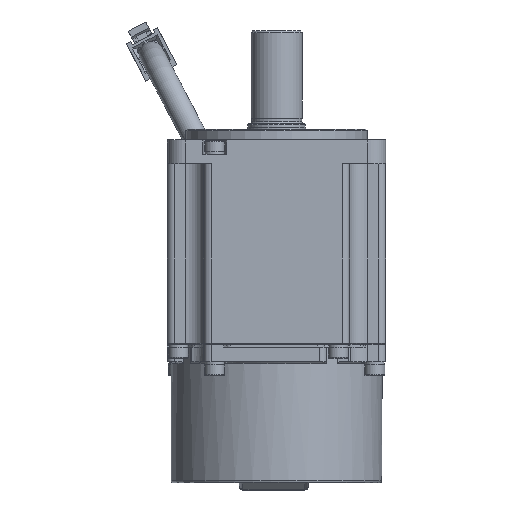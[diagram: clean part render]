
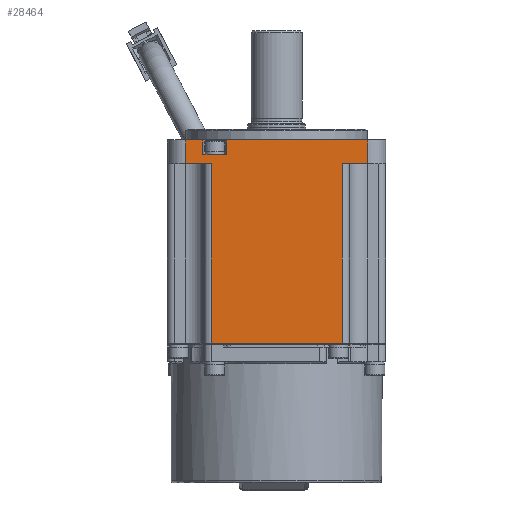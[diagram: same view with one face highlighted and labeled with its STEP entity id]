
A CAD part, front view. The second image highlights one B-rep face of the part: STEP entity #28464.
In plain terms, the highlighted planar face has unit normal (0, -1, 0).
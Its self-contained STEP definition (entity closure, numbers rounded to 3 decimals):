
#1724=PLANE('',#30789);
#3004=FACE_OUTER_BOUND('',#4581,.T.);
#4581=EDGE_LOOP('',(#23686,#23687,#23688,#23689,#23690,#23691,#23692,#23693,
#23694,#23695,#23696,#23697));
#6647=LINE('',#48571,#9019);
#6660=LINE('',#48607,#9032);
#6663=LINE('',#48616,#9035);
#6666=LINE('',#48623,#9038);
#6687=LINE('',#48674,#9059);
#6690=LINE('',#48681,#9062);
#6700=LINE('',#48718,#9072);
#6706=LINE('',#48737,#9078);
#6707=LINE('',#48739,#9079);
#6895=LINE('',#51685,#9267);
#6931=LINE('',#51783,#9303);
#6932=LINE('',#51785,#9304);
#9019=VECTOR('',#36041,1000.);
#9032=VECTOR('',#36066,1000.);
#9035=VECTOR('',#36075,1000.);
#9038=VECTOR('',#36082,1000.);
#9059=VECTOR('',#36133,1000.);
#9062=VECTOR('',#36140,1000.);
#9072=VECTOR('',#36172,1000.);
#9078=VECTOR('',#36188,1000.);
#9079=VECTOR('',#36191,1000.);
#9267=VECTOR('',#37171,1000.);
#9303=VECTOR('',#37285,1000.);
#9304=VECTOR('',#37288,1000.);
#12547=VERTEX_POINT('',#48563);
#12550=VERTEX_POINT('',#48568);
#12551=VERTEX_POINT('',#48570);
#12568=VERTEX_POINT('',#48605);
#12571=VERTEX_POINT('',#48615);
#12573=VERTEX_POINT('',#48621);
#12588=VERTEX_POINT('',#48673);
#12590=VERTEX_POINT('',#48679);
#12606=VERTEX_POINT('',#48716);
#12610=VERTEX_POINT('',#48726);
#12911=VERTEX_POINT('',#51675);
#12914=VERTEX_POINT('',#51683);
#16042=EDGE_CURVE('',#12550,#12551,#6647,.T.);
#16061=EDGE_CURVE('',#12568,#12547,#6660,.T.);
#16065=EDGE_CURVE('',#12571,#12547,#6663,.T.);
#16069=EDGE_CURVE('',#12568,#12573,#6666,.T.);
#16094=EDGE_CURVE('',#12588,#12551,#6687,.T.);
#16098=EDGE_CURVE('',#12550,#12590,#6690,.T.);
#16116=EDGE_CURVE('',#12573,#12606,#6700,.T.);
#16126=EDGE_CURVE('',#12610,#12588,#6706,.T.);
#16127=EDGE_CURVE('',#12590,#12571,#6707,.T.);
#16615=EDGE_CURVE('',#12911,#12914,#6895,.T.);
#16665=EDGE_CURVE('',#12911,#12606,#6931,.T.);
#16666=EDGE_CURVE('',#12914,#12610,#6932,.T.);
#23686=ORIENTED_EDGE('',*,*,#16666,.T.);
#23687=ORIENTED_EDGE('',*,*,#16126,.T.);
#23688=ORIENTED_EDGE('',*,*,#16094,.T.);
#23689=ORIENTED_EDGE('',*,*,#16042,.F.);
#23690=ORIENTED_EDGE('',*,*,#16098,.T.);
#23691=ORIENTED_EDGE('',*,*,#16127,.T.);
#23692=ORIENTED_EDGE('',*,*,#16065,.T.);
#23693=ORIENTED_EDGE('',*,*,#16061,.F.);
#23694=ORIENTED_EDGE('',*,*,#16069,.T.);
#23695=ORIENTED_EDGE('',*,*,#16116,.T.);
#23696=ORIENTED_EDGE('',*,*,#16665,.F.);
#23697=ORIENTED_EDGE('',*,*,#16615,.T.);
#28464=ADVANCED_FACE('',(#3004),#1724,.T.);
#30789=AXIS2_PLACEMENT_3D('',#51784,#37286,#37287);
#36041=DIRECTION('',(1.,0.,0.));
#36066=DIRECTION('',(1.,0.,0.));
#36075=DIRECTION('',(0.,0.,1.));
#36082=DIRECTION('',(0.,0.,-1.));
#36133=DIRECTION('',(0.,0.,1.));
#36140=DIRECTION('',(0.,0.,-1.));
#36172=DIRECTION('',(1.,0.,0.));
#36188=DIRECTION('',(1.,0.,0.));
#36191=DIRECTION('',(-1.,0.,0.));
#37171=DIRECTION('',(1.,0.,0.));
#37285=DIRECTION('',(0.,0.,1.));
#37286=DIRECTION('center_axis',(0.,-1.,0.));
#37287=DIRECTION('ref_axis',(0.,0.,
1.));
#37288=DIRECTION('',(0.,0.,1.));
#48563=CARTESIAN_POINT('',(-20.25,-30.,39.7));
#48568=CARTESIAN_POINT('',(-13.75,-30.,39.7));
#48570=CARTESIAN_POINT('',(25.,-30.,39.7));
#48571=CARTESIAN_POINT('',(0.,-30.,39.7));
#48605=CARTESIAN_POINT('',(-25.,-30.,39.7));
#48607=CARTESIAN_POINT('',(0.,-30.,39.7));
#48615=CARTESIAN_POINT('',(-20.25,-30.,35.7));
#48616=CARTESIAN_POINT('',(-20.25,-30.,42.7));
#48621=CARTESIAN_POINT('',(-25.,-30.,33.2));
#48623=CARTESIAN_POINT('',(-25.,-30.,42.7));
#48673=CARTESIAN_POINT('',(25.,-30.,33.2));
#48674=CARTESIAN_POINT('',(25.,-30.,42.7));
#48679=CARTESIAN_POINT('',(-13.75,-30.,35.7));
#48681=CARTESIAN_POINT('',(-13.75,-30.,42.7));
#48716=CARTESIAN_POINT('',(-18.,-30.,33.2));
#48718=CARTESIAN_POINT('',(-25.,-30.,33.2));
#48726=CARTESIAN_POINT('',(18.,-30.,33.2));
#48737=CARTESIAN_POINT('',(-25.,-30.,33.2));
#48739=CARTESIAN_POINT('',(-25.,-30.,35.7));
#51675=CARTESIAN_POINT('',(-18.,-30.,-16.2));
#51683=CARTESIAN_POINT('',(18.,-30.,-16.2));
#51685=CARTESIAN_POINT('',(-18.,-30.,-16.2));
#51783=CARTESIAN_POINT('',(-18.,-30.,-11.));
#51784=CARTESIAN_POINT('Origin',(18.,-30.,0.));
#51785=CARTESIAN_POINT('',(18.,-30.,-11.));
